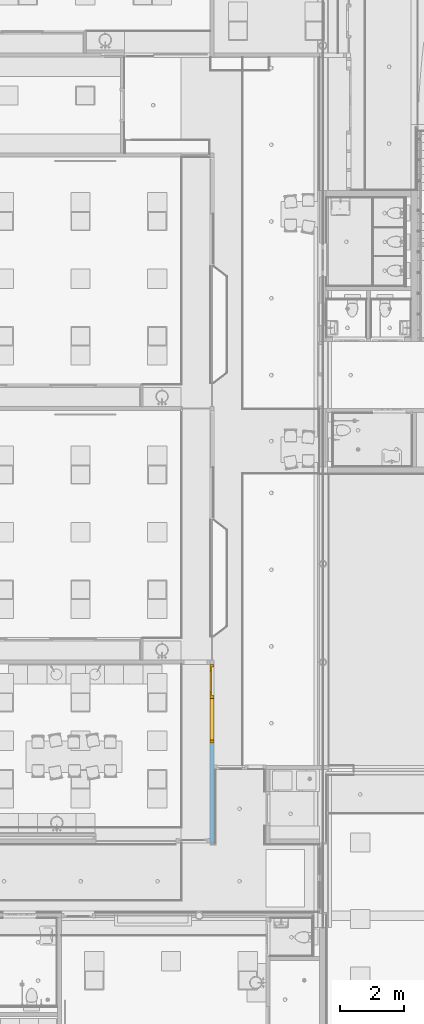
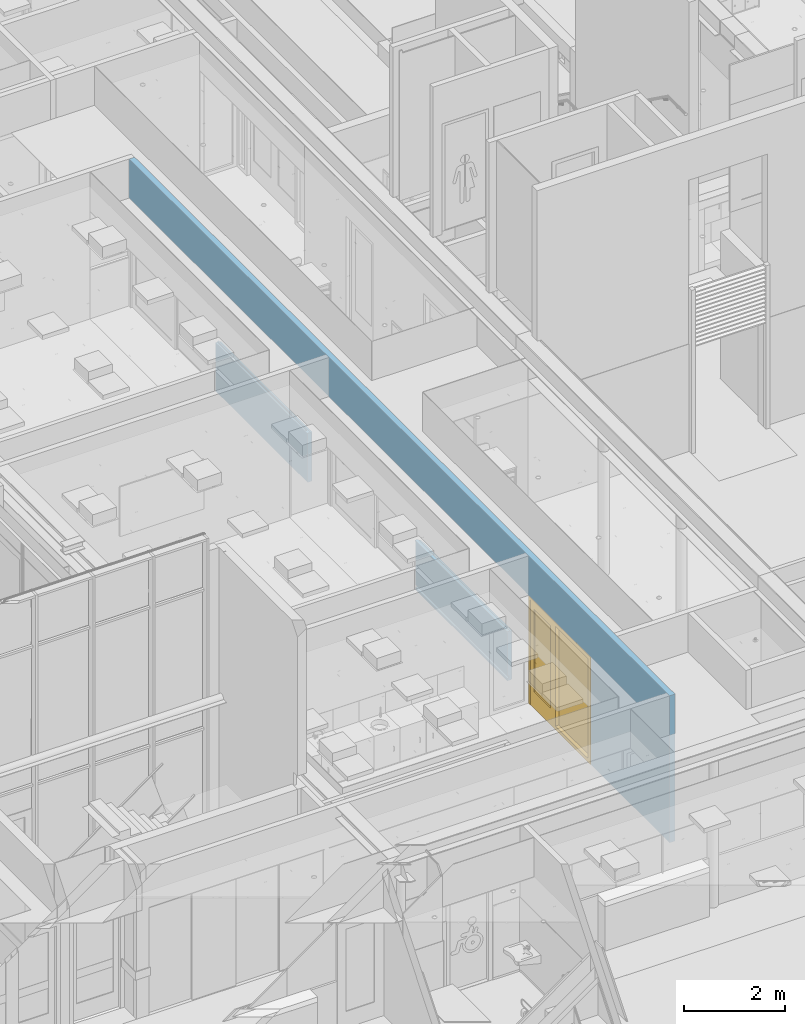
# One storey, part 48 of 347: 1 door, 12 openings, plus 1 element that does not belong to this part.
"""IFC2X3 building model written with IfcOpenShell, lengths in millimetres."""

from ifc_helpers import new_model, entity, si_unit, converted_unit, derived_unit, money_unit, direction, frame, origin_with_axes, place, context, subcontext, project, spatial, open_shell, faceted_brep, surface_model, material, type_object, element, fill, save


model = new_model("IFC2X3")

# Units and contexts
model_context = context("Model", 3, precision=0.01, world=origin_with_axes(), true_north=direction((0.0, 1.0)))
plan_context = context("Plan", 3, precision=0.01, world=origin_with_axes(), true_north=direction((0.0, 1.0)))
body_context = subcontext(model_context, "Body", "Model", "MODEL_VIEW")
ifc_project = project(units=[si_unit("LENGTHUNIT", "METRE", prefix="MILLI"), si_unit("AREAUNIT", "SQUARE_METRE"), si_unit("VOLUMEUNIT", "CUBIC_METRE"), converted_unit("PLANEANGLEUNIT", "DEGREE", entity("IfcPlaneAngleMeasure", 0.0174532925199), si_unit("PLANEANGLEUNIT", "RADIAN"), dimensions=[0, 0, 0, 0, 0, 0, 0]), money_unit("EUR"), converted_unit("TIMEUNIT", "Year", entity("IfcTimeMeasure", 31556926.0), si_unit("TIMEUNIT", "SECOND"), dimensions=[0, 0, 1, 0, 0, 0, 0]), si_unit("MASSUNIT", "GRAM", prefix="KILO"), si_unit("THERMODYNAMICTEMPERATUREUNIT", "DEGREE_CELSIUS"), si_unit("LUMINOUSINTENSITYUNIT", "LUMEN"), si_unit("ENERGYUNIT", "JOULE", prefix="MEGA"), derived_unit("THERMALCONDUCTANCEUNIT", [(si_unit("POWERUNIT", "WATT"), 1), (si_unit("LENGTHUNIT", "METRE"), -1), (si_unit("THERMODYNAMICTEMPERATUREUNIT", "KELVIN"), -1)]), derived_unit("SPECIFICHEATCAPACITYUNIT", [(si_unit("ENERGYUNIT", "JOULE"), 1), (si_unit("MASSUNIT", "GRAM", prefix="KILO"), -1), (si_unit("THERMODYNAMICTEMPERATUREUNIT", "KELVIN"), -1)]), derived_unit("MASSDENSITYUNIT", [(si_unit("MASSUNIT", "GRAM", prefix="KILO"), 1), (si_unit("VOLUMEUNIT", "CUBIC_METRE"), -1)])], contexts=[model_context, plan_context])

# Site, building, storey
site_placement = place(None, origin_with_axes())
site = spatial("IfcSite", under=ifc_project, at=site_placement, Name="Site", CompositionType="ELEMENT")
building_placement = place(site_placement, origin_with_axes())
building = spatial("IfcBuilding", under=site, at=building_placement, Name="Naam gebouw", CompositionType="ELEMENT")
storey_placement = place(building_placement, origin_with_axes())
storey = spatial("IfcBuildingStorey", under=building, at=storey_placement, Name="begane grond", CompositionType="ELEMENT", Elevation=0.0)

# Wall, openings, door
ifc_material = material(Name="ALG - LICHTE SCHEIDINGSWAND")
wall_type = type_object("IfcWallType", Name="ALG LSW 125 125", PredefinedType="NOTDEFINED")
wall_placement = place(storey_placement, frame((32075.0, 14400.0, 0.0), z_axis=(0.0, 0.0, 1.0), x_axis=(0.0, 1.0, 0.0)))
wall = element("IfcWall", 1, at=wall_placement, inside=storey, type_object=wall_type, material=ifc_material, Name="22_GF 125 ECO DGS/2.75.2A", context=body_context, shape_type="Brep", body=[
    faceted_brep([(10105.5, -88.9482869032, 1178.0), (10077.7299648, -125.0, 1178.0), (10077.7299648, -125.0, 0.0), (10105.5, -88.9482869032, 0.0), (6443.5, -88.9506197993, 1178.0), (6471.27110157, -125.0, 1178.0), (10105.5, -72.5, 1178.0), (6465.77078348, -72.1991566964, 1178.0), (6465.95055533, -72.4815328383, 1178.0), (6465.5, -72.4815328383, 1178.0), (6465.5, -72.1991343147, 1178.0), (6443.5, -72.1973158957, 1178.0), (6471.27110157, -125.0, 0.0), (6455.5, -104.527695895, 0.0), (6455.5, -11.9999999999, 0.0), (10105.5, -11.9999999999, 0.0), (6465.5, -71.7738242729, 0.0), (6465.5, -72.4815328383, 0.0), (6465.95055533, -72.4815328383, 0.0), (10105.5, 0.0, 1175.0), (10105.5, 0.0, 1200.0), (10105.5, -72.5, 1200.0), (10105.5, -11.9999999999, 60.0), (10105.5, -52.5, 60.0), (10105.5, -52.5, 120.0), (10105.5, -11.9999999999, 120.0), (10105.5, -11.9999999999, 1175.0), (6443.5, -88.9506197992, 1175.0), (6455.5, -104.527695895, 1175.0), (6443.5, -72.1973158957, 1200.0), (6465.5, -71.7738242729, 1178.0), (6443.5, 0.0, 1200.0), (6443.5, 0.0, 1175.0), (6455.5, -11.9999999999, 1175.0), (6455.5, -11.9999999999, 120.0), (6455.5, -52.5, 120.0), (6455.5, -52.5, 60.0), (6455.5, -11.9999999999, 60.0)], [[[0, 1, 2, 3]], [[4, 5, 1, 0, 6, 7, 8, 9, 10, 11]], [[2, 1, 5, 12]], [[12, 13, 14, 15, 3, 2], [16, 17, 18]], [[19, 20, 21, 6, 0, 3, 15, 22, 23, 24, 25, 26]], [[27, 28, 13, 12, 5, 4]], [[11, 10, 7, 6, 21, 29]], [[30, 16, 18, 8, 7]], [[9, 8, 18, 17]], [[17, 16, 30, 10, 9]], [[4, 11, 29, 31, 32, 27]], [[33, 34, 35, 36, 37, 14, 13, 28]], [[15, 14, 37, 22]], [[19, 32, 31, 20]], [[20, 31, 29, 21]], [[22, 37, 36, 23]], [[23, 36, 35, 24]], [[24, 35, 34, 25]], [[25, 34, 33, 26]], [[28, 27, 32, 19, 26, 33]], [[7, 10, 30]]]),
    faceted_brep([(18002.7299648, -125.0, 0.0), (18030.5, -88.9482869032, 0.0), (18030.5, -88.9482869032, 1178.0), (18002.7299648, -125.0, 1178.0), (14396.2711016, -125.0, 0.0), (14380.5, -104.527695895, 0.0), (14380.5, -11.9999999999, 0.0), (18030.5, -11.9999999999, 0.0), (14390.9505553, -72.4815328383, 0.0), (14390.5, -71.773824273, 0.0), (14390.5, -72.4815328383, 0.0), (18030.5, -11.9999999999, 1175.0), (18030.5, -52.5, 1175.0), (18030.5, -52.5, 1200.0), (18030.5, -72.5, 1200.0), (18030.5, -72.5, 1178.0), (14368.5, -72.5, 1178.0), (14368.5, -88.9506197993, 1178.0), (14396.2711016, -125.0, 1178.0), (14368.5, -88.9506197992, 1175.0), (14380.5, -104.527695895, 1175.0), (14380.5, -11.9999999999, 1175.0), (14470.5, -11.9999999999, 1175.0), (14390.9505553, -72.4815328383, 1178.0), (14390.5, -71.773824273, 1178.0), (14390.5, -72.4815328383, 1178.0), (14470.5, -52.5, 1175.0), (14470.5, -52.5, 1200.0), (14470.5, 0.0, 1200.0), (14368.5, 0.0, 1200.0), (14368.5, -72.5, 1200.0), (14368.5, 0.0, 1175.0), (14470.5, 0.0, 1175.0)], [[[0, 1, 2, 3]], [[1, 0, 4, 5, 6, 7], [8, 9, 10]], [[7, 11, 12, 13, 14, 15, 2, 1]], [[15, 16, 17, 18, 3, 2]], [[3, 18, 4, 0]], [[5, 4, 18, 17, 19, 20]], [[6, 5, 20, 21]], [[11, 7, 6, 21, 22]], [[8, 23, 24, 9]], [[9, 24, 25, 10]], [[10, 25, 23, 8]], [[26, 12, 11, 22]], [[27, 13, 12, 26]], [[13, 27, 28, 29, 30, 14]], [[16, 15, 14, 30]], [[30, 29, 31, 19, 17, 16]], [[31, 32, 22, 21, 20, 19]], [[25, 24, 23]], [[22, 32, 28, 27, 26]], [[29, 28, 32, 31]]]),
    faceted_brep([(0.0, -125.0, 0.0), (3125.0, -125.0, 0.0), (3125.0, -125.0, 2600.0), (5712.5, -125.0, 2600.0), (5712.5, -125.0, 2612.0), (21437.5, -125.0, 2612.0), (21437.5, -125.0, 3560.0), (0.0, -125.0, 3560.0), (0.0, 0.0, 0.0), (3125.0, 0.0, 0.0), (3125.0, 0.0, 2600.0), (5712.5, 0.0, 2600.0), (5712.5, 0.0, 2612.0), (21437.5, 0.0, 2612.0), (21437.5, 0.0, 3560.0), (0.0, 0.0, 3560.0)], [[[0, 1, 2, 3, 4, 5, 6, 7]], [[8, 9, 1, 0]], [[10, 2, 1, 9]], [[3, 2, 10, 11]], [[3, 11, 12, 4]], [[12, 13, 5, 4]], [[6, 5, 13, 14]], [[7, 6, 14, 15]], [[8, 0, 7, 15]], [[11, 10, 9, 8, 15, 14, 13, 12]]]),
])
opening_1_placement = place(wall_placement, frame((21500.0, 0.0, 0.0), z_axis=(0.0, 0.0, 1.0), x_axis=(1.0, 0.0, 0.0)))
element("IfcOpeningElement", 2, at=opening_1_placement, cuts=wall, Name="32_-", context=body_context, shape_type="Brep", body=[
    faceted_brep([(-69.5, -132.0, 0.0), (-69.5, -132.0, 2600.0), (-69.5, 7.00000000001, 2600.0), (-69.5, 7.00000000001, 0.0), (69.5, -132.0, 0.0), (69.5, -132.0, 2600.0)], [[[0, 1, 2, 3]], [[1, 0, 4, 5]], [[1, 5, 2]], [[5, 4, 3, 2]], [[0, 3, 4]]]),
])
opening_2_placement = place(wall_placement, frame((17115.0, 0.0, 1200.0), z_axis=(0.0, 0.0, 1.0), x_axis=(1.0, 0.0, 0.0)))
element("IfcOpeningElement", 3, at=opening_2_placement, cuts=wall, Name="31_11.01", context=body_context, shape_type="Brep", body=[
    faceted_brep([(915.5, -72.5, 1400.0), (915.5, -72.5, 0.0), (915.5, 125.0, 0.0), (915.5, 125.0, 1400.0), (-915.5, -72.5, 1400.0), (-915.5, -72.5, 0.0), (-915.5, 125.0, 0.0), (-915.5, 125.0, 1400.0)], [[[0, 1, 2, 3]], [[0, 4, 5, 1]], [[1, 5, 6, 2]], [[3, 2, 6, 7]], [[4, 0, 3, 7]], [[5, 4, 7, 6]]]),
    faceted_brep([(915.5, -72.5, 0.0), (915.5, -72.5, 1400.0), (915.5, -250.0, 1400.0), (915.5, -250.0, 0.0), (-915.5, -72.5, 0.0), (-915.5, -72.5, 1400.0), (-915.5, -250.0, 1400.0), (-915.5, -250.0, 0.0)], [[[0, 1, 2, 3]], [[0, 4, 5, 1]], [[1, 5, 6, 2]], [[3, 2, 6, 7]], [[4, 0, 3, 7]], [[5, 4, 7, 6]]]),
])
opening_3_placement = place(wall_placement, frame((14006.5, 0.0, 0.0), z_axis=(0.0, 0.0, 1.0), x_axis=(1.0, 0.0, 0.0)))
element("IfcOpeningElement", 4, at=opening_3_placement, cuts=wall, Name="32_10.01", context=body_context, shape_type="Brep", body=[
    faceted_brep([(362.0, -72.5, 2600.0), (362.0, -72.5, 0.0), (362.0, 125.0, 0.0), (362.0, 125.0, 2600.0), (-362.0, -72.5, 2600.0), (-362.0, -72.5, 0.0), (-362.0, 125.0, 0.0), (-362.0, 125.0, 2600.0)], [[[0, 1, 2, 3]], [[0, 4, 5, 1]], [[1, 5, 6, 2]], [[3, 2, 6, 7]], [[4, 0, 3, 7]], [[5, 4, 7, 6]]]),
    faceted_brep([(362.0, -72.5, 0.0), (362.0, -72.5, 2600.0), (362.0, -250.0, 2600.0), (362.0, -250.0, 0.0), (-362.0, -72.5, 0.0), (-362.0, -72.5, 2600.0), (-362.0, -250.0, 2600.0), (-362.0, -250.0, 0.0)], [[[0, 1, 2, 3]], [[0, 4, 5, 1]], [[1, 5, 6, 2]], [[3, 2, 6, 7]], [[4, 0, 3, 7]], [[5, 4, 7, 6]]]),
])
opening_4_placement = place(wall_placement, frame((13575.0, 0.0, 0.0), z_axis=(0.0, 0.0, 1.0), x_axis=(1.0, 0.0, 0.0)))
element("IfcOpeningElement", 5, at=opening_4_placement, cuts=wall, Name="32_-", context=body_context, shape_type="Brep", body=[
    faceted_brep([(69.5, -132.0, 2600.0), (69.5, -132.0, 0.0), (69.5, 132.0, 0.0), (69.5, 132.0, 2600.0), (-69.5, -132.0, 2600.0), (-69.5, -132.0, 0.0), (-69.5, 132.0, 0.0), (-69.5, 132.0, 2600.0)], [[[0, 1, 2, 3]], [[0, 4, 5, 1]], [[1, 5, 6, 2]], [[3, 2, 6, 7]], [[4, 0, 3, 7]], [[5, 4, 7, 6]]]),
])
opening_5_placement = place(wall_placement, frame((6081.5, 0.0, 0.0), z_axis=(0.0, 0.0, 1.0), x_axis=(1.0, 0.0, 0.0)))
element("IfcOpeningElement", 6, at=opening_5_placement, cuts=wall, Name="32_10.01", context=body_context, shape_type="Brep", body=[
    faceted_brep([(362.0, -72.5, 2600.0), (362.0, -72.5, 0.0), (362.0, 125.0, 0.0), (362.0, 125.0, 2600.0), (-362.0, -72.5, 2600.0), (-362.0, -72.5, 0.0), (-362.0, 125.0, 0.0), (-362.0, 125.0, 2600.0)], [[[0, 1, 2, 3]], [[0, 4, 5, 1]], [[1, 5, 6, 2]], [[3, 2, 6, 7]], [[4, 0, 3, 7]], [[5, 4, 7, 6]]]),
    faceted_brep([(362.0, -72.5, 0.0), (362.0, -72.5, 2600.0), (362.0, -250.0, 2600.0), (362.0, -250.0, 0.0), (-362.0, -72.5, 0.0), (-362.0, -72.5, 2600.0), (-362.0, -250.0, 2600.0), (-362.0, -250.0, 0.0)], [[[0, 1, 2, 3]], [[0, 4, 5, 1]], [[1, 5, 6, 2]], [[3, 2, 6, 7]], [[4, 0, 3, 7]], [[5, 4, 7, 6]]]),
])
opening_6_placement = place(wall_placement, frame((9190.0, 0.0, 1200.0), z_axis=(0.0, 0.0, 1.0), x_axis=(1.0, 0.0, 0.0)))
element("IfcOpeningElement", 7, at=opening_6_placement, cuts=wall, Name="31_11.01", context=body_context, shape_type="Brep", body=[
    faceted_brep([(915.5, -72.5, 1400.0), (915.5, -72.5, 0.0), (915.5, 125.0, 0.0), (915.5, 125.0, 1400.0), (-915.5, -72.5, 1400.0), (-915.5, -72.5, 0.0), (-915.5, 125.0, 0.0), (-915.5, 125.0, 1400.0)], [[[0, 1, 2, 3]], [[0, 4, 5, 1]], [[1, 5, 6, 2]], [[3, 2, 6, 7]], [[4, 0, 3, 7]], [[5, 4, 7, 6]]]),
    faceted_brep([(915.5, -72.5, 0.0), (915.5, -72.5, 1400.0), (915.5, -250.0, 1400.0), (915.5, -250.0, 0.0), (-915.5, -72.5, 0.0), (-915.5, -72.5, 1400.0), (-915.5, -250.0, 1400.0), (-915.5, -250.0, 0.0)], [[[0, 1, 2, 3]], [[0, 4, 5, 1]], [[1, 5, 6, 2]], [[3, 2, 6, 7]], [[4, 0, 3, 7]], [[5, 4, 7, 6]]]),
])
opening_7_placement = place(wall_placement, frame((5650.0, 0.0, 0.0), z_axis=(0.0, 0.0, 1.0), x_axis=(1.0, 0.0, 0.0)))
element("IfcOpeningElement", 8, at=opening_7_placement, cuts=wall, Name="32_-", context=body_context, shape_type="Brep", body=[
    faceted_brep([(69.5, -132.0, 2600.0), (69.5, -132.0, 0.0), (69.5, 132.0, 0.0), (69.5, 132.0, 2600.0), (-69.5, -132.0, 2600.0), (-69.5, -132.0, 0.0), (-69.5, 132.0, 0.0), (-69.5, 132.0, 2600.0)], [[[0, 1, 2, 3]], [[0, 4, 5, 1]], [[1, 5, 6, 2]], [[3, 2, 6, 7]], [[4, 0, 3, 7]], [[5, 4, 7, 6]]]),
])
opening_8_placement = place(wall_placement, frame((15284.0, 0.0, 1200.0), z_axis=(0.0, 0.0, 1.0), x_axis=(1.0, 0.0, 0.0)))
element("IfcOpeningElement", 9, at=opening_8_placement, cuts=wall, Name="31_11.01", context=body_context, shape_type="Brep", body=[
    faceted_brep([(915.5, -72.5, 1400.0), (915.5, -72.5, 0.0), (915.5, 125.0, 0.0), (915.5, 125.0, 1400.0), (-915.5, -72.5, 1400.0), (-915.5, -72.5, 0.0), (-915.5, 125.0, 0.0), (-915.5, 125.0, 1400.0)], [[[0, 1, 2, 3]], [[0, 4, 5, 1]], [[1, 5, 6, 2]], [[3, 2, 6, 7]], [[4, 0, 3, 7]], [[5, 4, 7, 6]]]),
    faceted_brep([(915.5, -72.5, 0.0), (915.5, -72.5, 1400.0), (915.5, -250.0, 1400.0), (915.5, -250.0, 0.0), (-915.5, -72.5, 0.0), (-915.5, -72.5, 1400.0), (-915.5, -250.0, 1400.0), (-915.5, -250.0, 0.0)], [[[0, 1, 2, 3]], [[0, 4, 5, 1]], [[1, 5, 6, 2]], [[3, 2, 6, 7]], [[4, 0, 3, 7]], [[5, 4, 7, 6]]]),
])
opening_9_placement = place(wall_placement, frame((7359.0, 0.0, 1200.0), z_axis=(0.0, 0.0, 1.0), x_axis=(1.0, 0.0, 0.0)))
element("IfcOpeningElement", 10, at=opening_9_placement, cuts=wall, Name="31_11.01", context=body_context, shape_type="Brep", body=[
    faceted_brep([(915.5, -72.5, 1400.0), (915.5, -72.5, 0.0), (915.5, 125.0, 0.0), (915.5, 125.0, 1400.0), (-915.5, -72.5, 1400.0), (-915.5, -72.5, 0.0), (-915.5, 125.0, 0.0), (-915.5, 125.0, 1400.0)], [[[0, 1, 2, 3]], [[0, 4, 5, 1]], [[1, 5, 6, 2]], [[3, 2, 6, 7]], [[4, 0, 3, 7]], [[5, 4, 7, 6]]]),
    faceted_brep([(915.5, -72.5, 0.0), (915.5, -72.5, 1400.0), (915.5, -250.0, 1400.0), (915.5, -250.0, 0.0), (-915.5, -72.5, 0.0), (-915.5, -72.5, 1400.0), (-915.5, -250.0, 1400.0), (-915.5, -250.0, 0.0)], [[[0, 1, 2, 3]], [[0, 4, 5, 1]], [[1, 5, 6, 2]], [[3, 2, 6, 7]], [[4, 0, 3, 7]], [[5, 4, 7, 6]]]),
])
opening_10_placement = place(wall_placement, frame((19730.5, 0.0, 0.0), z_axis=(0.0, 0.0, 1.0), x_axis=(1.0, 0.0, 0.0)))
element("IfcOpeningElement", 11, at=opening_10_placement, cuts=wall, Name="32_06.01", context=body_context, shape_type="Brep", body=[
    faceted_brep([(1700.0, -132.0, 2599.99996583), (1700.0, -132.0, 0.0), (1700.0, 132.0, 0.0), (1700.0, 132.0, 2599.99996583), (-1700.0, -132.0, 2599.99996583), (-1700.0, -132.0, 0.0), (-1700.0, 132.0, 0.0), (-1700.0, 132.0, 2599.99996583)], [[[0, 1, 2, 3]], [[0, 4, 5, 1]], [[1, 5, 6, 2]], [[3, 2, 6, 7]], [[4, 0, 3, 7]], [[5, 4, 7, 6]]]),
])
opening_11_placement = place(wall_placement, frame((11805.5, 0.0, 0.0), z_axis=(0.0, 0.0, 1.0), x_axis=(1.0, 0.0, 0.0)))
element("IfcOpeningElement", 12, at=opening_11_placement, cuts=wall, Name="32_06.01", context=body_context, shape_type="Brep", body=[
    faceted_brep([(1700.0, -132.0, 2599.99996583), (1700.0, -132.0, 0.0), (1700.0, 132.0, 0.0), (1700.0, 132.0, 2599.99996583), (-1700.0, -132.0, 2599.99996583), (-1700.0, -132.0, 0.0), (-1700.0, 132.0, 0.0), (-1700.0, 132.0, 2599.99996583)], [[[0, 1, 2, 3]], [[0, 4, 5, 1]], [[1, 5, 6, 2]], [[3, 2, 6, 7]], [[4, 0, 3, 7]], [[5, 4, 7, 6]]]),
])
opening_12_placement = place(wall_placement, frame((4352.75, 0.0, 0.0), z_axis=(0.0, 0.0, 1.0), x_axis=(1.0, 0.0, 0.0)))
opening_12 = element("IfcOpeningElement", 13, at=opening_12_placement, cuts=wall, Name="32_04.06", context=body_context, shape_type="Brep", body=[
    faceted_brep([(1227.75, -125.0, 2600.0), (1227.75, -125.0, 0.0), (1227.75, 257.0, 0.0), (1227.75, 257.0, 2600.0), (-1227.75, -125.0, 2600.0), (-1227.75, -125.0, 0.0), (-1227.75, 257.0, 0.0), (-1227.75, 257.0, 2600.0)], [[[0, 1, 2, 3]], [[0, 4, 5, 1]], [[1, 5, 6, 2]], [[3, 2, 6, 7]], [[4, 0, 3, 7]], [[5, 4, 7, 6]]]),
])
door_style = type_object("IfcDoorStyle", Name="D1 zl1-b 25", ConstructionType="NOTDEFINED", OperationType="SINGLE_SWING_RIGHT", ParameterTakesPrecedence=False, Sizeable=False)
door_placement = place(opening_12_placement, frame((-1227.75, 0.0, 0.0), z_axis=(0.0, 0.0, 1.0), x_axis=(1.0, 0.0, 0.0)))
door = element("IfcDoor", 14, at=door_placement, inside=storey, type_object=door_style, Name="32_04.06", ObjectType="DOOR", OverallHeight=2600.0, OverallWidth=2455.5, context=body_context, shape_type="SurfaceModel", body=[
    faceted_brep([(0.0, 7.00000000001, 0.0), (90.0, 7.00000000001, 0.0), (90.0, -132.0, 0.0), (0.0, -132.0, 0.0), (0.0, 7.00000000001, 2510.0), (90.0, 7.00000000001, 2510.0), (90.0, 7.00000000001, 90.0), (90.0, -132.0, 90.0), (90.0, -132.0, 2510.0), (0.0, -132.0, 2510.0)], [[[0, 1, 2, 3]], [[0, 4, 5, 6, 1]], [[1, 6, 7, 2]], [[3, 2, 7, 8, 9]], [[4, 0, 3, 9]], [[5, 4, 9, 8]], [[6, 5, 8, 7]]]),
    faceted_brep([(1481.5, -53.0, 0.0), (1481.5, -53.0, 2510.0), (1481.5, -132.0, 2510.0), (1481.5, -132.0, 0.0), (1456.5, -53.0, 2510.0), (1456.5, -53.0, 0.0), (1456.5, 7.00000000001, 2510.0), (1391.5, 7.00000000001, 2510.0), (1391.5, -132.0, 2510.0), (1391.5, -132.0, 0.0), (1391.5, -132.0, 90.0), (1391.5, 7.00000000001, 0.0), (1456.5, 7.00000000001, 0.0), (1391.5, 7.00000000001, 90.0)], [[[0, 1, 2, 3]], [[4, 1, 0, 5]], [[4, 6, 7, 8, 2, 1]], [[9, 3, 2, 8, 10]], [[5, 0, 3, 9, 11, 12]], [[6, 4, 5, 12]], [[6, 12, 11, 13, 7]], [[13, 10, 8, 7]], [[11, 9, 10, 13]]]),
    faceted_brep([(90.0, 7.00000000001, 90.0), (90.0, 7.00000000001, 0.0), (90.0, -132.0, 0.0), (90.0, -132.0, 90.0), (1391.5, 7.00000000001, 90.0), (1391.5, 7.00000000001, 0.0), (1391.5, -132.0, 0.0), (1391.5, -132.0, 90.0)], [[[0, 1, 2, 3]], [[0, 4, 5, 1]], [[1, 5, 6, 2]], [[3, 2, 6, 7]], [[4, 0, 3, 7]], [[5, 4, 7, 6]]]),
    faceted_brep([(2390.5, -53.0, 2510.0), (2365.5, -53.0, 2510.0), (2365.5, -132.0, 2510.0), (2455.5, -132.0, 2510.0), (2455.5, 7.00000000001, 2510.0), (2390.5, 7.00000000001, 2510.0), (2390.5, -53.0, 0.0), (2365.5, -53.0, 0.0), (2365.5, -132.0, 0.0), (2455.5, -132.0, 0.0), (2455.5, 7.00000000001, 0.0), (2390.5, 7.00000000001, 0.0)], [[[0, 1, 2, 3, 4, 5]], [[1, 0, 6, 7]], [[1, 7, 8, 2]], [[3, 2, 8, 9]], [[4, 3, 9, 10]], [[11, 5, 4, 10]], [[0, 5, 11, 6]], [[6, 11, 10, 9, 8, 7]]]),
    faceted_brep([(1456.5, 7.00000000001, 2535.0), (1456.5, 7.00000000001, 2510.0), (1391.5, 7.00000000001, 2510.0), (90.0, 7.00000000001, 2510.0), (0.0, 7.00000000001, 2510.0), (0.0, 7.00000000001, 2600.0), (2455.5, 7.00000000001, 2600.0), (2455.5, 7.00000000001, 2510.0), (2390.5, 7.00000000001, 2510.0), (2390.5, 7.00000000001, 2535.0), (1456.5, -53.0, 2535.0), (1456.5, -53.0, 2510.0), (2365.5, -53.0, 2510.0), (2365.5, -132.0, 2510.0), (1481.5, -132.0, 2510.0), (1391.5, -132.0, 2510.0), (90.0, -132.0, 2510.0), (0.0, -132.0, 2510.0), (0.0, -132.0, 2600.0), (2455.5, -132.0, 2600.0), (2455.5, -132.0, 2510.0), (2390.5, -53.0, 2510.0), (2390.5, -53.0, 2535.0)], [[[0, 1, 2, 3, 4, 5, 6, 7, 8, 9]], [[1, 0, 10, 11]], [[11, 12, 13, 14, 15, 2, 1]], [[2, 15, 16, 3]], [[3, 16, 17, 4]], [[4, 17, 18, 5]], [[5, 18, 19, 6]], [[6, 19, 20, 7]], [[21, 8, 7, 20, 13, 12]], [[9, 8, 21, 22]], [[0, 9, 22, 10]], [[21, 12, 11, 10, 22]], [[13, 20, 19, 18, 17, 16, 15, 14]]]),
    faceted_brep([(2390.5, 1.0, 400.0), (2390.5, -53.0, 400.0), (2250.5, -53.0, 400.0), (2250.5, 1.0, 400.0), (2390.5, 1.0, 2395.0), (2390.5, -53.0, 2395.0), (2250.5, -53.0, 2395.0), (2250.5, 1.0, 2395.0)], [[[0, 1, 2, 3]], [[4, 5, 1, 0]], [[1, 5, 6, 2]], [[3, 2, 6, 7]], [[0, 3, 7, 4]], [[7, 6, 5, 4]]]),
    faceted_brep([(1456.5, 1.0, 400.0), (1456.5, -53.0, 400.0), (1456.5, -53.0, 2395.0), (1456.5, 1.0, 2395.0), (1596.5, 1.0, 400.0), (1596.5, -53.0, 400.0), (1596.5, -53.0, 2395.0), (1596.5, 1.0, 2395.0)], [[[0, 1, 2, 3]], [[4, 5, 1, 0]], [[1, 5, 6, 2]], [[3, 2, 6, 7]], [[0, 3, 7, 4]], [[7, 6, 5, 4]]]),
    faceted_brep([(2390.5, 1.0, 0.0), (2390.5, -53.0, 0.0), (1456.5, -53.0, 0.0), (1456.5, 1.0, 0.0), (2390.5, 1.0, 400.0), (2390.5, -53.0, 400.0), (2250.5, -53.0, 400.0), (1596.5, -53.0, 400.0), (1456.5, -53.0, 400.0), (1456.5, 1.0, 400.0), (1596.5, 1.0, 400.0), (2250.5, 1.0, 400.0)], [[[0, 1, 2, 3]], [[4, 5, 1, 0]], [[1, 5, 6, 7, 8, 2]], [[3, 2, 8, 9]], [[0, 3, 9, 10, 11, 4]], [[11, 6, 5, 4]], [[10, 7, 6, 11]], [[9, 8, 7, 10]]]),
    faceted_brep([(2390.5, 1.0, 2535.0), (2390.5, -53.0, 2535.0), (2390.5, -53.0, 2395.0), (2390.5, 1.0, 2395.0), (1456.5, 1.0, 2535.0), (1456.5, -53.0, 2535.0), (1456.5, -53.0, 2395.0), (1596.5, -53.0, 2395.0), (2250.5, -53.0, 2395.0), (2250.5, 1.0, 2395.0), (1596.5, 1.0, 2395.0), (1456.5, 1.0, 2395.0)], [[[0, 1, 2, 3]], [[4, 5, 1, 0]], [[1, 5, 6, 7, 8, 2]], [[3, 2, 8, 9]], [[0, 3, 9, 10, 11, 4]], [[11, 6, 5, 4]], [[10, 7, 6, 11]], [[9, 8, 7, 10]]]),
    surface_model("IfcShellBasedSurfaceModel", [(2250.5, -20.0, 400.0), (1596.5, -20.0, 400.0), (1596.5, -20.0, 2395.0), (2250.5, -20.0, 2395.0)], [open_shell([[[0, 1, 2, 3]]])]),
    surface_model("IfcShellBasedSurfaceModel", [(2250.5, -32.0, 400.0), (2250.5, -32.0, 2395.0), (1596.5, -32.0, 2395.0), (1596.5, -32.0, 400.0)], [open_shell([[[0, 1, 2, 3]]])]),
    surface_model("IfcShellBasedSurfaceModel", [(90.0, -72.0, 90.0), (90.0, -72.0, 2510.0), (1391.5, -72.0, 2510.0), (1391.5, -72.0, 90.0)], [open_shell([[[0, 1, 2, 3]]])]),
    surface_model("IfcShellBasedSurfaceModel", [(90.0, -84.0, 90.0), (1391.5, -84.0, 90.0), (1391.5, -84.0, 2510.0), (90.0, -84.0, 2510.0)], [open_shell([[[0, 1, 2, 3]]])]),
])
fill(opening_12, door)

save(model, "model.ifc")
